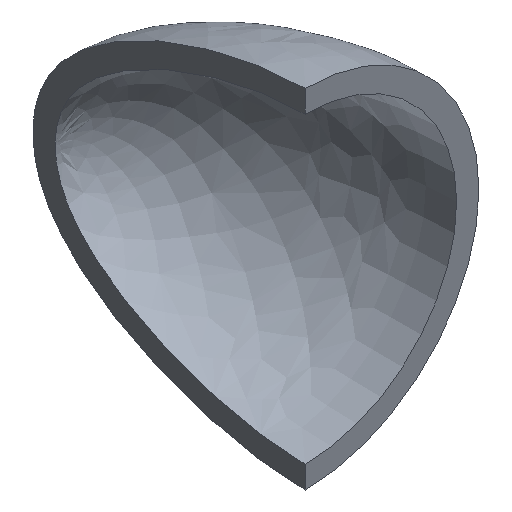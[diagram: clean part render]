
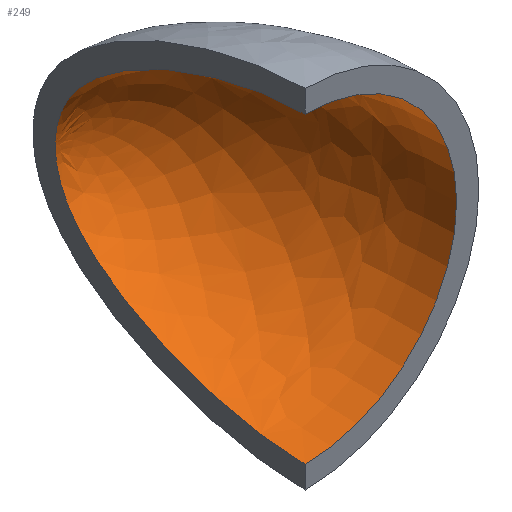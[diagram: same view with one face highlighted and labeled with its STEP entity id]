
A CAD part, isometric view. The second image highlights one B-rep face of the part: STEP entity #249.
In plain terms, the highlighted face is a revolution surface.
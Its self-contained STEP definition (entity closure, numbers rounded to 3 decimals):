
#100=CARTESIAN_POINT('Axis2P3D Location',(0.,0.,0.)) ;
#104=CARTESIAN_POINT('Vertex',(0.,0.,68.)) ;
#106=CARTESIAN_POINT('Vertex',(0.,0.,-68.)) ;
#132=CARTESIAN_POINT('Control Point',(0.,0.,-68.)) ;
#133=CARTESIAN_POINT('Control Point',(0.,2.939,-68.)) ;
#134=CARTESIAN_POINT('Control Point',(0.,5.919,-67.903)) ;
#135=CARTESIAN_POINT('Control Point',(0.,8.935,-67.712)) ;
#136=CARTESIAN_POINT('Control Point',(0.,15.271,-67.127)) ;
#137=CARTESIAN_POINT('Control Point',(0.,21.707,-66.168)) ;
#138=CARTESIAN_POINT('Control Point',(0.,25.07,-65.573)) ;
#139=CARTESIAN_POINT('Control Point',(0.,32.116,-64.138)) ;
#140=CARTESIAN_POINT('Control Point',(0.,39.174,-62.312)) ;
#141=CARTESIAN_POINT('Control Point',(0.,42.846,-61.258)) ;
#142=CARTESIAN_POINT('Control Point',(0.,50.575,-58.818)) ;
#143=CARTESIAN_POINT('Control Point',(0.,58.179,-55.936)) ;
#144=CARTESIAN_POINT('Control Point',(0.,62.137,-54.295)) ;
#145=CARTESIAN_POINT('Control Point',(0.,69.465,-50.974)) ;
#146=CARTESIAN_POINT('Control Point',(0.,76.478,-47.212)) ;
#147=CARTESIAN_POINT('Control Point',(0.,79.684,-45.349)) ;
#148=CARTESIAN_POINT('Control Point',(0.,84.924,-42.032)) ;
#149=CARTESIAN_POINT('Control Point',(0.,89.804,-38.426)) ;
#150=CARTESIAN_POINT('Control Point',(0.,91.728,-36.906)) ;
#151=CARTESIAN_POINT('Control Point',(0.,95.216,-33.945)) ;
#152=CARTESIAN_POINT('Control Point',(0.,98.396,-30.816)) ;
#153=CARTESIAN_POINT('Control Point',(0.,99.817,-29.306)) ;
#154=CARTESIAN_POINT('Control Point',(0.,102.686,-25.999)) ;
#155=CARTESIAN_POINT('Control Point',(0.,105.147,-22.54)) ;
#156=CARTESIAN_POINT('Control Point',(0.,106.334,-20.655)) ;
#157=CARTESIAN_POINT('Control Point',(0.,108.194,-17.258)) ;
#158=CARTESIAN_POINT('Control Point',(0.,109.625,-13.743)) ;
#159=CARTESIAN_POINT('Control Point',(0.,110.163,-12.196)) ;
#160=CARTESIAN_POINT('Control Point',(0.,110.953,-9.467)) ;
#161=CARTESIAN_POINT('Control Point',(0.,111.488,-6.665)) ;
#162=CARTESIAN_POINT('Control Point',(0.,111.669,-5.461)) ;
#163=CARTESIAN_POINT('Control Point',(0.,111.869,-3.654)) ;
#164=CARTESIAN_POINT('Control Point',(0.,111.968,-1.817)) ;
#165=CARTESIAN_POINT('Control Point',(0.,111.989,-1.214)) ;
#166=CARTESIAN_POINT('Control Point',(0.,112.,-0.609)) ;
#167=CARTESIAN_POINT('Control Point',(0.,112.,0.)) ;
#168=CARTESIAN_POINT('Vertex',(0.,112.,0.)) ;
#172=CARTESIAN_POINT('Control Point',(0.,0.,68.)) ;
#173=CARTESIAN_POINT('Control Point',(0.,2.939,68.)) ;
#174=CARTESIAN_POINT('Control Point',(0.,5.919,67.903)) ;
#175=CARTESIAN_POINT('Control Point',(0.,8.935,67.712)) ;
#176=CARTESIAN_POINT('Control Point',(0.,15.271,67.127)) ;
#177=CARTESIAN_POINT('Control Point',(0.,21.707,66.168)) ;
#178=CARTESIAN_POINT('Control Point',(0.,25.07,65.573)) ;
#179=CARTESIAN_POINT('Control Point',(0.,32.116,64.138)) ;
#180=CARTESIAN_POINT('Control Point',(0.,39.174,62.312)) ;
#181=CARTESIAN_POINT('Control Point',(0.,42.846,61.258)) ;
#182=CARTESIAN_POINT('Control Point',(0.,50.575,58.818)) ;
#183=CARTESIAN_POINT('Control Point',(0.,58.179,55.936)) ;
#184=CARTESIAN_POINT('Control Point',(0.,62.137,54.295)) ;
#185=CARTESIAN_POINT('Control Point',(0.,69.465,50.974)) ;
#186=CARTESIAN_POINT('Control Point',(0.,76.478,47.212)) ;
#187=CARTESIAN_POINT('Control Point',(0.,79.684,45.349)) ;
#188=CARTESIAN_POINT('Control Point',(0.,84.924,42.032)) ;
#189=CARTESIAN_POINT('Control Point',(0.,89.804,38.426)) ;
#190=CARTESIAN_POINT('Control Point',(0.,91.728,36.906)) ;
#191=CARTESIAN_POINT('Control Point',(0.,95.216,33.945)) ;
#192=CARTESIAN_POINT('Control Point',(0.,98.396,30.816)) ;
#193=CARTESIAN_POINT('Control Point',(0.,99.817,29.306)) ;
#194=CARTESIAN_POINT('Control Point',(0.,102.686,25.999)) ;
#195=CARTESIAN_POINT('Control Point',(0.,105.147,22.54)) ;
#196=CARTESIAN_POINT('Control Point',(0.,106.334,20.655)) ;
#197=CARTESIAN_POINT('Control Point',(0.,108.194,17.258)) ;
#198=CARTESIAN_POINT('Control Point',(0.,109.625,13.743)) ;
#199=CARTESIAN_POINT('Control Point',(0.,110.163,12.196)) ;
#200=CARTESIAN_POINT('Control Point',(0.,110.953,9.467)) ;
#201=CARTESIAN_POINT('Control Point',(0.,111.488,6.665)) ;
#202=CARTESIAN_POINT('Control Point',(0.,111.669,5.461)) ;
#203=CARTESIAN_POINT('Control Point',(0.,111.869,3.654)) ;
#204=CARTESIAN_POINT('Control Point',(0.,111.968,1.817)) ;
#205=CARTESIAN_POINT('Control Point',(0.,111.989,1.214)) ;
#206=CARTESIAN_POINT('Control Point',(0.,112.,0.609)) ;
#207=CARTESIAN_POINT('Control Point',(0.,112.,0.)) ;
#219=CARTESIAN_POINT('Control Point',(0.,0.,68.)) ;
#220=CARTESIAN_POINT('Control Point',(0.,6.644,68.)) ;
#221=CARTESIAN_POINT('Control Point',(0.,13.663,67.505)) ;
#222=CARTESIAN_POINT('Control Point',(0.,21.065,66.496)) ;
#223=CARTESIAN_POINT('Control Point',(0.,36.388,63.459)) ;
#224=CARTESIAN_POINT('Control Point',(0.,52.086,58.461)) ;
#225=CARTESIAN_POINT('Control Point',(0.,59.863,55.493)) ;
#226=CARTESIAN_POINT('Control Point',(0.,71.095,50.388)) ;
#227=CARTESIAN_POINT('Control Point',(0.,81.203,44.428)) ;
#228=CARTESIAN_POINT('Control Point',(0.,84.422,42.353)) ;
#229=CARTESIAN_POINT('Control Point',(0.,90.503,38.045)) ;
#230=CARTESIAN_POINT('Control Point',(0.,95.79,33.461)) ;
#231=CARTESIAN_POINT('Control Point',(0.,98.212,31.109)) ;
#232=CARTESIAN_POINT('Control Point',(0.,102.581,26.313)) ;
#233=CARTESIAN_POINT('Control Point',(0.,105.975,21.357)) ;
#234=CARTESIAN_POINT('Control Point',(0.,107.421,18.848)) ;
#235=CARTESIAN_POINT('Control Point',(0.,109.823,13.762)) ;
#236=CARTESIAN_POINT('Control Point',(0.,111.264,8.472)) ;
#237=CARTESIAN_POINT('Control Point',(0.,111.751,5.758)) ;
#238=CARTESIAN_POINT('Control Point',(0.,112.,2.942)) ;
#239=CARTESIAN_POINT('Control Point',(0.,112.,0.)) ;
#240=CARTESIAN_POINT('Axis1P Location',(0.,0.,0.)) ;
#101=DIRECTION('Axis2P3D Direction',(0.,1.,0.)) ;
#241=DIRECTION('Axis1P Direction',(0.,1.,0.)) ;
#102=AXIS2_PLACEMENT_3D('Circle Axis2P3D',#100,#101,$) ;
#245=ORIENTED_EDGE('',*,*,#108,.F.) ;
#246=ORIENTED_EDGE('',*,*,#208,.T.) ;
#247=ORIENTED_EDGE('',*,*,#170,.F.) ;
#249=ADVANCED_FACE('PartBody',(#248),#243,.F.) ;
#242=AXIS1_PLACEMENT('Revolution Surface Axis1P',#240,#241) ;
#131=B_SPLINE_CURVE_WITH_KNOTS('',5,(#132,#133,#134,#135,#136,#137,#138,#139,#140,#141,#142,#143,#144,#145,#146,#147,#148,#149,#150,#151,#152,#153,#154,#155,#156,#157,#158,#159,#160,#161,#162,#163,#164,#165,#166,#167),.UNSPECIFIED.,.F.,.U.,(6,3,3,3,3,3,3,3,3,3,3,6),(0.,21.739,45.237,70.822,99.344,124.547,141.916,157.353,174.98,188.491,198.473,203.299),.UNSPECIFIED.) ;
#171=B_SPLINE_CURVE_WITH_KNOTS('',5,(#172,#173,#174,#175,#176,#177,#178,#179,#180,#181,#182,#183,#184,#185,#186,#187,#188,#189,#190,#191,#192,#193,#194,#195,#196,#197,#198,#199,#200,#201,#202,#203,#204,#205,#206,#207),.UNSPECIFIED.,.F.,.U.,(6,3,3,3,3,3,3,3,3,3,3,6),(0.,21.739,45.237,70.822,99.344,124.547,141.916,157.353,174.98,188.491,198.473,203.299),.UNSPECIFIED.) ;
#218=B_SPLINE_CURVE_WITH_KNOTS('',5,(#219,#220,#221,#222,#223,#224,#225,#226,#227,#228,#229,#230,#231,#232,#233,#234,#235,#236,#237,#238,#239),.UNSPECIFIED.,.F.,.U.,(6,3,3,3,3,3,6),(0.,36.201,72.402,90.502,108.602,126.703,144.803),.UNSPECIFIED.) ;
#103=CIRCLE('generated circle',#102,68.) ;
#108=EDGE_CURVE('',#105,#107,#103,.T.) ;
#170=EDGE_CURVE('',#107,#169,#131,.T.) ;
#208=EDGE_CURVE('',#105,#169,#171,.T.) ;
#244=EDGE_LOOP('',(#245,#246,#247)) ;
#248=FACE_OUTER_BOUND('',#244,.T.) ;
#243=SURFACE_OF_REVOLUTION('Surface of Revolution',#218,#242) ;
#105=VERTEX_POINT('',#104) ;
#107=VERTEX_POINT('',#106) ;
#169=VERTEX_POINT('',#168) ;
